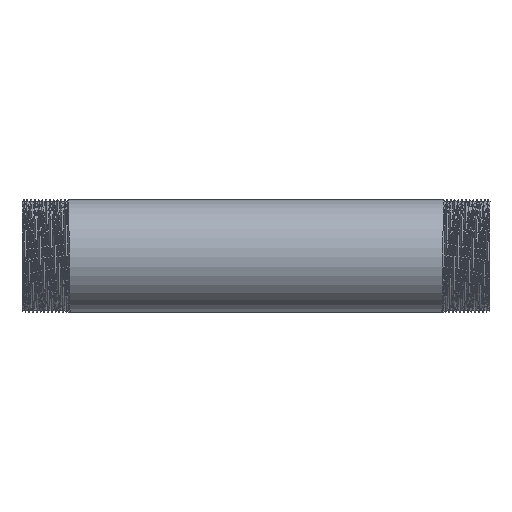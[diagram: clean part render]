
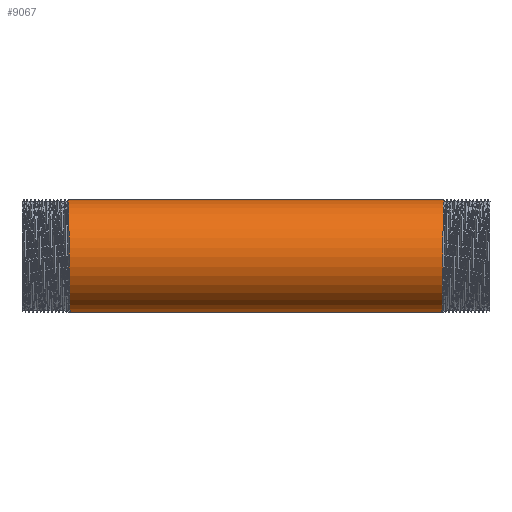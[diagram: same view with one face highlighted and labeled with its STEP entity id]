
A CAD part, front view. The second image highlights one B-rep face of the part: STEP entity #9067.
In plain terms, the highlighted cylindrical face has radius 30.15 mm (diameter 60.3 mm), a partial arc.
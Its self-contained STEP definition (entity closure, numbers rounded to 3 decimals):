
#79 = CARTESIAN_POINT ( 'NONE',  ( 100.05, -17.722, 24.392 ) ) ;
#111 = CARTESIAN_POINT ( 'NONE',  ( -99.35, -9.796, -30.15 ) ) ;
#436 = VERTEX_POINT ( 'NONE', #6040 ) ;
#457 = EDGE_CURVE ( 'NONE', #436, #11906, #1944, .T. ) ;
#989 = CARTESIAN_POINT ( 'NONE',  ( -149.494, 0., -30.15 ) ) ;
#1846 = CARTESIAN_POINT ( 'NONE',  ( -100.25, 0., 30.15 ) ) ;
#1917 = VERTEX_POINT ( 'NONE', #12620 ) ;
#1944 = LINE ( 'NONE', #989, #4578 ) ;
#1972 = CARTESIAN_POINT ( 'NONE',  ( -99.85, -28.674, 9.317 ) ) ;
#2087 = CARTESIAN_POINT ( 'NONE',  ( -99.65, -28.674, -9.317 ) ) ;
#2333 =( BOUNDED_CURVE ( )  B_SPLINE_CURVE ( 2, ( #6973, #111, #4929, #9805, #2087, #8008, #1972, #5886, #9926, #10643, #1846 ),
 .UNSPECIFIED., .F., .F. ) 
 B_SPLINE_CURVE_WITH_KNOTS ( ( 3, 2, 2, 2, 2, 3 ),
 ( 0., 0.007, 0.013, 0.02, 0.027, 0.033 ),
 .UNSPECIFIED. ) 
 CURVE ( )  GEOMETRIC_REPRESENTATION_ITEM ( )  RATIONAL_B_SPLINE_CURVE ( ( 1., 0.951, 1., 0.951, 1., 0.951, 1., 0.951, 1., 0.951, 1. ) ) 
 REPRESENTATION_ITEM ( '' )  );
#2347 = ORIENTED_EDGE ( 'NONE', *, *, #6182, .T. ) ;
#2787 = FACE_OUTER_BOUND ( 'NONE', #8927, .T. ) ;
#2850 = DIRECTION ( 'NONE',  ( 0., 0., 1. ) ) ;
#3207 = DIRECTION ( 'NONE',  ( -1., 0., 0. ) ) ;
#3811 = DIRECTION ( 'NONE',  ( -1., 0., 0. ) ) ;
#3869 = DIRECTION ( 'NONE',  ( -1., 0., 0. ) ) ;
#4170 = LINE ( 'NONE', #8158, #10932 ) ;
#4578 = VECTOR ( 'NONE', #3869, 1000. ) ;
#4929 = CARTESIAN_POINT ( 'NONE',  ( -99.45, -17.722, -24.392 ) ) ;
#5466 = CARTESIAN_POINT ( 'NONE',  ( -100.25, 0., 30.15 ) ) ;
#5722 = EDGE_CURVE ( 'NONE', #11906, #11622, #2333, .T. ) ;
#5828 = ORIENTED_EDGE ( 'NONE', *, *, #11734, .T. ) ;
#5886 = CARTESIAN_POINT ( 'NONE',  ( -99.95, -25.647, 18.634 ) ) ;
#5913 = CARTESIAN_POINT ( 'NONE',  ( 99.75, -31.702, 0. ) ) ;
#6040 = CARTESIAN_POINT ( 'NONE',  ( 99.25, 0., -30.15 ) ) ;
#6182 = EDGE_CURVE ( 'NONE', #436, #1917, #10637, .T. ) ;
#6247 = CARTESIAN_POINT ( 'NONE',  ( -99.25, 0., -30.15 ) ) ;
#6475 = AXIS2_PLACEMENT_3D ( 'NONE', #12613, #3811, #2850 ) ;
#6688 = CARTESIAN_POINT ( 'NONE',  ( 99.95, -25.647, 18.634 ) ) ;
#6752 = CARTESIAN_POINT ( 'NONE',  ( 99.85, -28.674, 9.317 ) ) ;
#6817 = CARTESIAN_POINT ( 'NONE',  ( 99.55, -25.647, -18.634 ) ) ;
#6929 = ORIENTED_EDGE ( 'NONE', *, *, #457, .F. ) ;
#6973 = CARTESIAN_POINT ( 'NONE',  ( -99.25, 0., -30.15 ) ) ;
#7659 = CARTESIAN_POINT ( 'NONE',  ( 99.35, -9.796, -30.15 ) ) ;
#7916 = CARTESIAN_POINT ( 'NONE',  ( 100.15, -9.796, 30.15 ) ) ;
#8008 = CARTESIAN_POINT ( 'NONE',  ( -99.75, -31.702, 0. ) ) ;
#8158 = CARTESIAN_POINT ( 'NONE',  ( -149.494, 0., 30.15 ) ) ;
#8622 = CARTESIAN_POINT ( 'NONE',  ( 99.45, -17.722, -24.392 ) ) ;
#8754 = CARTESIAN_POINT ( 'NONE',  ( 99.25, 0., -30.15 ) ) ;
#8927 = EDGE_LOOP ( 'NONE', ( #6929, #2347, #5828, #10593 ) ) ;
#9067 = ADVANCED_FACE ( 'NONE', ( #2787 ), #9662, .T. ) ;
#9662 = CYLINDRICAL_SURFACE ( 'NONE', #6475, 30.15 ) ;
#9805 = CARTESIAN_POINT ( 'NONE',  ( -99.55, -25.647, -18.634 ) ) ;
#9926 = CARTESIAN_POINT ( 'NONE',  ( -100.05, -17.722, 24.392 ) ) ;
#10593 = ORIENTED_EDGE ( 'NONE', *, *, #5722, .F. ) ;
#10637 =( BOUNDED_CURVE ( )  B_SPLINE_CURVE ( 2, ( #8754, #7659, #8622, #6817, #10733, #5913, #6752, #6688, #79, #7916, #10673 ),
 .UNSPECIFIED., .F., .F. ) 
 B_SPLINE_CURVE_WITH_KNOTS ( ( 3, 2, 2, 2, 2, 3 ),
 ( 0., 0.007, 0.013, 0.02, 0.027, 0.033 ),
 .UNSPECIFIED. ) 
 CURVE ( )  GEOMETRIC_REPRESENTATION_ITEM ( )  RATIONAL_B_SPLINE_CURVE ( ( 1., 0.951, 1., 0.951, 1., 0.951, 1., 0.951, 1., 0.951, 1. ) ) 
 REPRESENTATION_ITEM ( '' )  );
#10643 = CARTESIAN_POINT ( 'NONE',  ( -100.15, -9.796, 30.15 ) ) ;
#10673 = CARTESIAN_POINT ( 'NONE',  ( 100.25, 0., 30.15 ) ) ;
#10733 = CARTESIAN_POINT ( 'NONE',  ( 99.65, -28.674, -9.317 ) ) ;
#10932 = VECTOR ( 'NONE', #3207, 1000. ) ;
#11622 = VERTEX_POINT ( 'NONE', #5466 ) ;
#11734 = EDGE_CURVE ( 'NONE', #1917, #11622, #4170, .T. ) ;
#11906 = VERTEX_POINT ( 'NONE', #6247 ) ;
#12613 = CARTESIAN_POINT ( 'NONE',  ( -149.494, 0., 0. ) ) ;
#12620 = CARTESIAN_POINT ( 'NONE',  ( 100.25, 0., 30.15 ) ) ;
